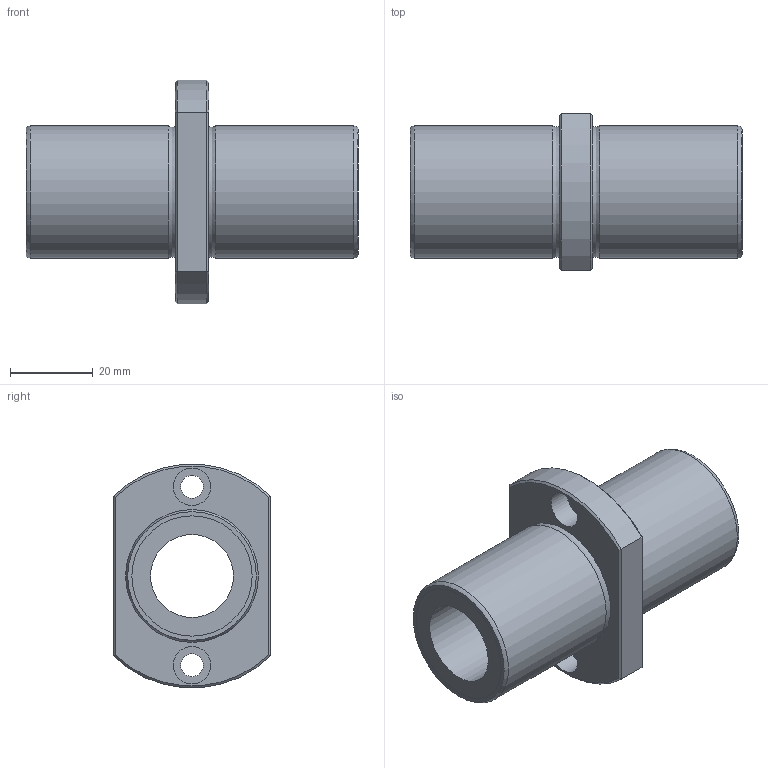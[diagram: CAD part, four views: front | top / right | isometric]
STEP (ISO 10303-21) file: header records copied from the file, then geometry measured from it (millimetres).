
FILE_DESCRIPTION((''),'2;1');
FILE_NAME('D:\製品 (図面)\カタログ用3D\リニアベアリング関連\STEP形式\LFDTC\LFDTC20.stp','2010-06-04T08:40:40',('Tsuchiya'),(''),'Autodesk Inventor 10','Autodesk Inventor 10','');
FILE_SCHEMA(('AUTOMOTIVE_DESIGN { 1 0 10303 214 1 1 1 1 }'));
Length unit declared in the file: millimetre
Products named in the file (1): LFDTC20
Bounding box: 80 x 38 x 53.8 mm (x, y, z)
Volume: 46650.6 mm3; surface area: 16854.5 mm2
Topology: 1 solids, 1 shells, 33 faces, 63 edges, 38 vertices
Faces by surface type: plane 14, cylinder 11, cone 4, torus 2, bspline 2
Full cylindrical faces by diameter (mm): 5.5 x2, 9 x2, 20 x1, 29 x2, 32 x2
Entity records: 925 total; most frequent: CARTESIAN_POINT 270, DIRECTION 136, ORIENTED_EDGE 100, AXIS2_PLACEMENT_3D 62, EDGE_LOOP 58, EDGE_CURVE 50, VERTEX_POINT 38, FACE_OUTER_BOUND 33
